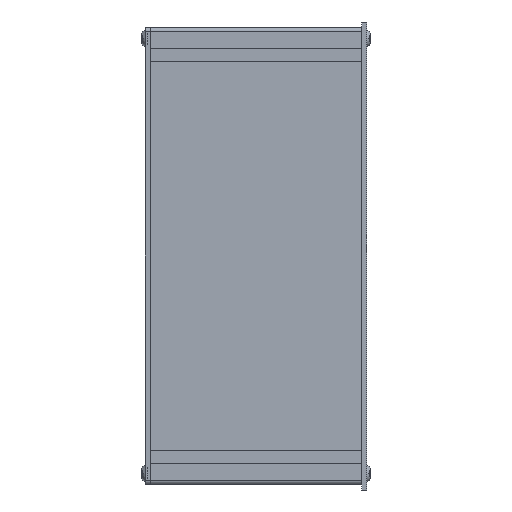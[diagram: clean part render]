
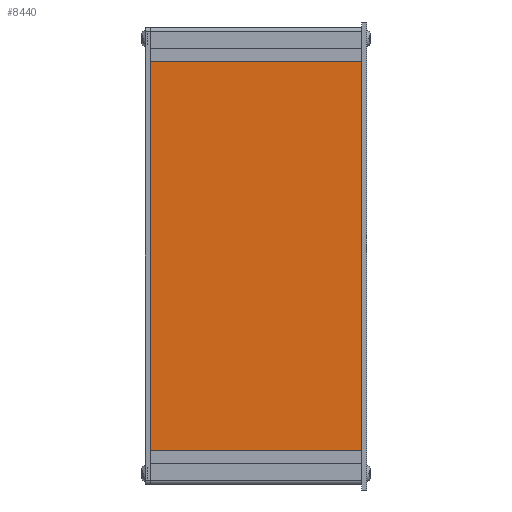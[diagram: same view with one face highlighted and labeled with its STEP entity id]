
A CAD part, left-side view. The second image highlights one B-rep face of the part: STEP entity #8440.
In plain terms, the highlighted planar face has unit normal (-1, 0, 0).
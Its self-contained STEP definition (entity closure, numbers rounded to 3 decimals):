
#932=PLANE('',#9294);
#1230=FACE_OUTER_BOUND('',#1760,.T.);
#1760=EDGE_LOOP('',(#6487,#6488,#6489,#6490));
#2504=LINE('',#13370,#3182);
#2514=LINE('',#13391,#3192);
#2515=LINE('',#13393,#3193);
#2516=LINE('',#13394,#3194);
#3182=VECTOR('',#10716,10.);
#3192=VECTOR('',#10734,10.);
#3193=VECTOR('',#10735,10.);
#3194=VECTOR('',#10736,10.);
#4160=VERTEX_POINT('',#13363);
#4163=VERTEX_POINT('',#13368);
#4170=VERTEX_POINT('',#13390);
#4171=VERTEX_POINT('',#13392);
#4995=EDGE_CURVE('',#4160,#4163,#2504,.T.);
#5005=EDGE_CURVE('',#4160,#4170,#2514,.T.);
#5006=EDGE_CURVE('',#4171,#4163,#2515,.T.);
#5007=EDGE_CURVE('',#4170,#4171,#2516,.T.);
#6487=ORIENTED_EDGE('',*,*,#5005,.F.);
#6488=ORIENTED_EDGE('',*,*,#4995,.T.);
#6489=ORIENTED_EDGE('',*,*,#5006,.F.);
#6490=ORIENTED_EDGE('',*,*,#5007,.F.);
#8440=ADVANCED_FACE('',(#1230),#932,.T.);
#9294=AXIS2_PLACEMENT_3D('',#13389,#10732,#10733);
#10716=DIRECTION('',(0.,1.,0.));
#10732=DIRECTION('center_axis',(-1.,0.,0.));
#10733=DIRECTION('ref_axis',(0.,0.,1.));
#10734=DIRECTION('',(0.,0.,-1.));
#10735=DIRECTION('',(0.,0.,1.));
#10736=DIRECTION('',(0.,1.,0.));
#13363=CARTESIAN_POINT('',(239.,0.,48.));
#13368=CARTESIAN_POINT('',(239.,100.,48.));
#13370=CARTESIAN_POINT('',(239.,0.,48.));
#13389=CARTESIAN_POINT('Origin',(239.,0.,-136.1));
#13390=CARTESIAN_POINT('',(239.,0.,-136.1));
#13391=CARTESIAN_POINT('',(239.,0.,-44.05));
#13392=CARTESIAN_POINT('',(239.,100.,-136.1));
#13393=CARTESIAN_POINT('',(239.,100.,-44.05));
#13394=CARTESIAN_POINT('',(239.,0.,-136.1));
